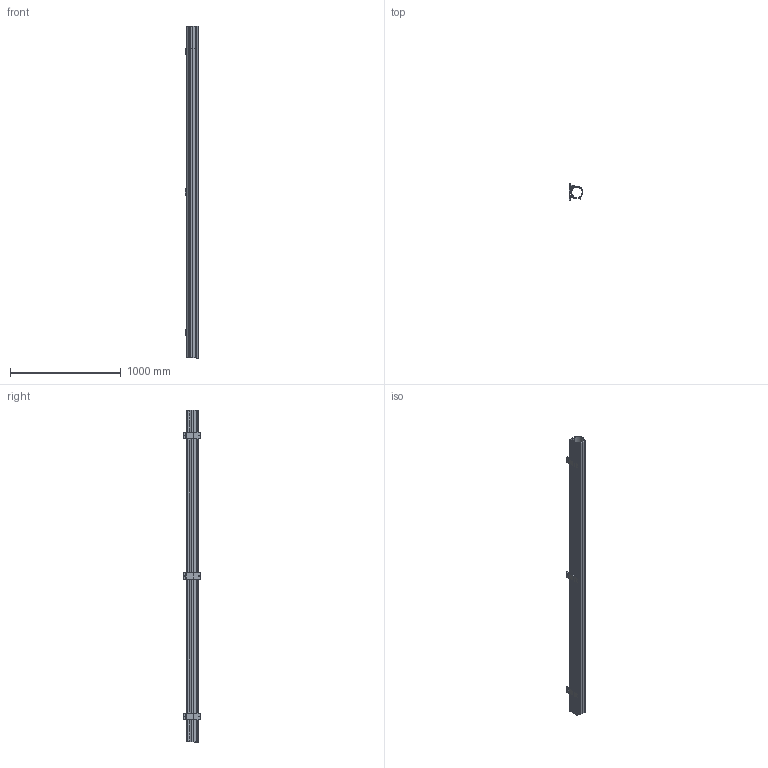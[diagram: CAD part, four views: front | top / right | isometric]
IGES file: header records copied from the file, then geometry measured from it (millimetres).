
Global section: file name: \\renishaw.com\global\GB\PLC\Common\UserDocs\Gloucestershire\LCPD\js138116\My Documents\LA-8003-40XX-01 HS20 DUCTING\LA_8003_40XX_01.igs; native system: NX V7.5; preprocessor: SIEMENS PLM Software NX 7.5; date: 20150211.141736; units: millimetre
Bounding box: 120.93 x 156 x 3000 mm (x, y, z)
Surface area: 3373318.6 mm2 (no closed solid volume)
Topology: 0 solids, 0 shells, 441 faces, 4221 edges, 5492 vertices
Faces by surface type: bspline 441
